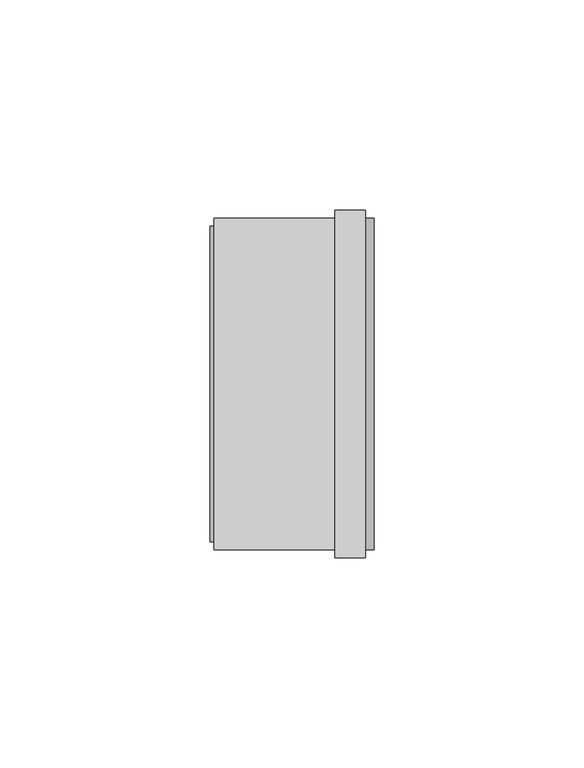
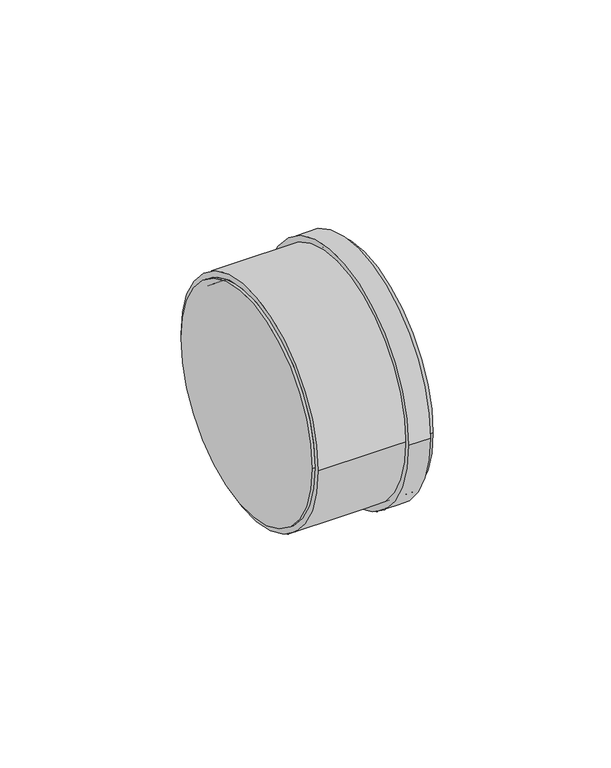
"""IFC4 building model written with IfcOpenShell, lengths in millimetres: pipe fitting geometry, Superdrain HTM-Plug : Superdrain HTM-Plug."""

from ifc_helpers import new_model, si_unit, point, frame, origin, origin_2d, place, context, project, spatial, polyline, circle_curve, trimmed, segment, composite_curve, outline, extrude, source, transform, mapped, element, save
from ifc_brep_helpers import plane_surface, cylinder_surface, revolved_surface, advanced_brep


def pipe_fitting_d5ad7a8b(model_context):
    return source(origin(), model_context, "Body", "SolidModel", [
        extrude(outline(composite_curve([segment(trimmed(circle_curve(origin_2d(), 39.375), [point((39.375, 0.0))], [point((-39.375, 0.0))], False, "CARTESIAN"), True, "CONTINUOUS"), segment(trimmed(circle_curve(origin_2d(), 39.375), [point((-39.375, 0.0))], [point((39.375, 0.0))], False, "CARTESIAN"), True, "CONTINUOUS")], self_intersect=False), holes=[composite_curve([segment(trimmed(circle_curve(origin_2d(), 37.5), [point((37.5, 0.0))], [point((-37.5, 0.0))], True, "CARTESIAN"), True, "CONTINUOUS"), segment(trimmed(circle_curve(origin_2d(), 37.5), [point((-37.5, 0.0))], [point((37.5, 0.0))], True, "CARTESIAN"), True, "CONTINUOUS")], self_intersect=False)]), frame((0.0, 0.0, 0.0), z_axis=(1.0, 0.0, 0.0), x_axis=(0.0, 1.0, 0.0)), (0.0, 0.0, 1.0), 36.0),
        extrude(outline(composite_curve([segment(trimmed(circle_curve(origin_2d(), 41.34375), [point((41.34375, 0.0))], [point((-41.34375, 0.0))], False, "CARTESIAN"), True, "CONTINUOUS"), segment(trimmed(circle_curve(origin_2d(), 41.34375), [point((-41.34375, 0.0))], [point((41.34375, 0.0))], False, "CARTESIAN"), True, "CONTINUOUS")], self_intersect=False), holes=[composite_curve([segment(trimmed(circle_curve(origin_2d(), 37.5), [point((37.5, 0.0))], [point((-37.5, 0.0))], True, "CARTESIAN"), True, "CONTINUOUS"), segment(trimmed(circle_curve(origin_2d(), 37.5), [point((-37.5, 0.0))], [point((37.5, 0.0))], True, "CARTESIAN"), True, "CONTINUOUS")], self_intersect=False)]), frame((28.8, 0.0, 0.0), z_axis=(1.0, 0.0, 0.0), x_axis=(0.0, 1.0, 0.0)), (0.0, 0.0, 1.0), 7.2),
        extrude(outline(composite_curve([segment(trimmed(circle_curve(origin_2d(), 37.5), [point((37.5, 0.0))], [point((-37.5, 0.0))], False, "CARTESIAN"), True, "CONTINUOUS"), segment(trimmed(circle_curve(origin_2d(), 37.5), [point((-37.5, 0.0))], [point((37.5, 0.0))], False, "CARTESIAN"), True, "CONTINUOUS")], self_intersect=False)), frame((-1.0, 0.0, 0.0), z_axis=(1.0, 0.0, 0.0), x_axis=(0.0, 1.0, 0.0)), (0.0, 0.0, 1.0), 1.0),
        advanced_brep(
        [(0.0, -37.5, 0.0), (0.0, 37.5, 0.0), (0.0, 35.625, 0.0), (0.0, -35.625, 0.0), (38.0, -37.5, 0.0), (38.0, 37.5, 0.0), (36.0, -35.625, 0.0), (36.0, 35.625, 0.0)],
        [
            (0, 1, circle_curve(frame((0.0, 0.0, 0.0), z_axis=(-1.0, 0.0, 0.0), x_axis=(0.0, 1.0, 0.0)), 37.5)),
            (1, 0, circle_curve(frame((0.0, 0.0, 0.0), z_axis=(-1.0, 0.0, 0.0), x_axis=(0.0, 1.0, 0.0)), 37.5)),
            (2, 3, circle_curve(frame((0.0, 0.0, 0.0), z_axis=(1.0, 0.0, 0.0), x_axis=(0.0, 1.0, 0.0)), 35.625)),
            (3, 2, circle_curve(frame((0.0, 0.0, 0.0), z_axis=(1.0, 0.0, 0.0), x_axis=(0.0, 1.0, 0.0)), 35.625)),
            (4, 5, circle_curve(frame((38.0, 0.0, 0.0), z_axis=(1.0, 0.0, 0.0), x_axis=(0.0, 1.0, 0.0)), 37.5)),
            (5, 4, circle_curve(frame((38.0, 0.0, 0.0), z_axis=(1.0, 0.0, 0.0), x_axis=(0.0, 1.0, 0.0)), 37.5)),
            (0, 4),
            (5, 1),
            (6, 7, circle_curve(frame((36.0, 0.0, 0.0), z_axis=(-1.0, 0.0, 0.0), x_axis=(0.0, 1.0, 0.0)), 35.625)),
            (7, 6, circle_curve(frame((36.0, 0.0, 0.0), z_axis=(-1.0, 0.0, 0.0), x_axis=(0.0, 1.0, 0.0)), 35.625)),
            (6, 3),
            (2, 7),
        ],
        [
            plane_surface(frame((0.0, 0.0, 0.0), z_axis=(-1.0, 0.0, 0.0), x_axis=(0.0, 0.0, 1.0))),
            plane_surface(frame((38.0, 0.0, 0.0), z_axis=(1.0, 0.0, 0.0), x_axis=(0.0, 0.0, 1.0))),
            cylinder_surface(frame((0.0, 0.0, 0.0), z_axis=(-1.0, 0.0, 0.0), x_axis=(0.0, 1.0, 0.0)), 37.5),
            plane_surface(frame((36.0, 0.0, 0.0), z_axis=(-1.0, 0.0, 0.0), x_axis=(0.0, 0.0, 1.0))),
            revolved_surface(polyline([(0.0, 35.625, 0.0), (36.0, 35.625, 0.0)]), (-2.0, 0.0, 0.0), (-1.0, 0.0, 0.0)),
        ],
        [
            (0, [[1, 2], [3, 4]]),
            (1, [[5, 6]]),
            (2, [[-1, 7, -6, 8]]),
            (2, [[-2, -8, -5, -7]]),
            (3, [[9, 10]]),
            (4, [[-9, 11, -3, 12]]),
            (4, [[-10, -12, -4, -11]]),
        ],
    ),
        extrude(outline(composite_curve([segment(trimmed(circle_curve(origin_2d(), 39.375), [point((-39.375, 0.0))], [point((39.375, 0.0))], False, "CARTESIAN"), True, "CONTINUOUS"), segment(trimmed(circle_curve(origin_2d(), 39.375), [point((39.375, 0.0))], [point((-39.375, 0.0))], False, "CARTESIAN"), True, "CONTINUOUS")], self_intersect=False)), frame((36.0, 0.0, 0.0), z_axis=(1.0, 0.0, 0.0), x_axis=(0.0, 1.0, 0.0)), (0.0, 0.0, 1.0), 2.0),
    ])


if __name__ == "__main__":
    model = new_model("IFC4")
    model_context = context("Model", 3, world=origin())
    ifc_project = project(units=[si_unit("LENGTHUNIT", "METRE", prefix="MILLI")], contexts=[model_context])
    site = spatial("IfcSite", under=ifc_project)
    building = spatial("IfcBuilding", under=site)
    placement = place(None, origin())
    pipe_fitting_shape = pipe_fitting_d5ad7a8b(model_context)
    element("IfcPipeFitting", 1, ObjectType="Superdrain HTM-Plug : Superdrain HTM-Plug", at=placement, inside=building, context=model_context, shape_type="MappedRepresentation", body=[
        mapped(pipe_fitting_shape, transform((0.0, 0.0, 0.0), x_axis=(1.0, 0.0, 0.0), y_axis=(0.0, 1.0, 0.0), z_axis=(0.0, 0.0, 1.0))),
    ])
    save(model, "model.ifc")
